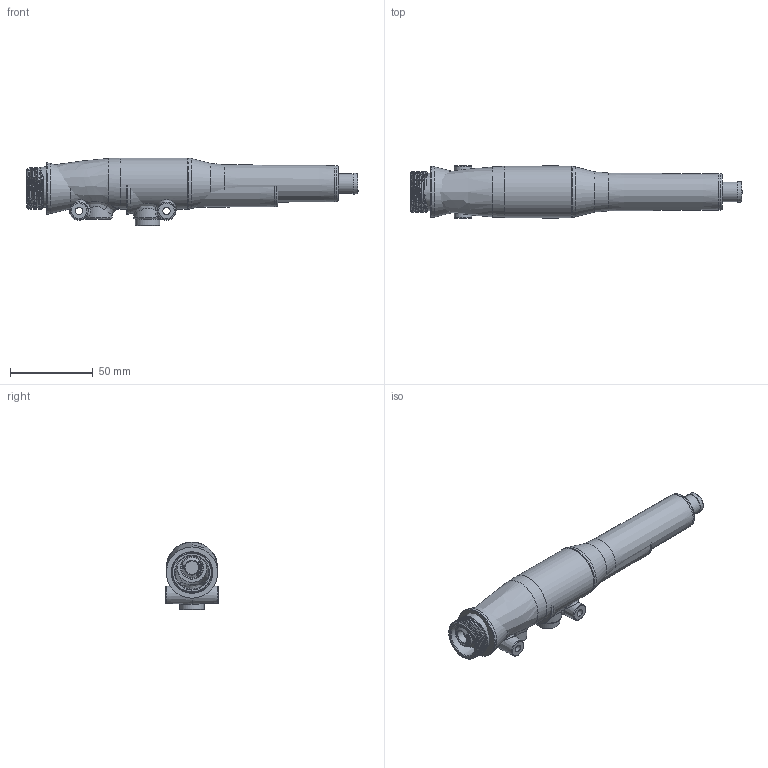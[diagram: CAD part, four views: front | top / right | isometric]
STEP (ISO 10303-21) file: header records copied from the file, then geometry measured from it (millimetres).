
FILE_DESCRIPTION( ( 'Unknown' ), '1' );
FILE_NAME( 'X:/±è¿µ¿î/Green Pump/VC253 Pump-6/GS253F-DIM.stp', 'Unknown', ( 'Unknown' ), ( 'Unknown' ), 'PSStep 10.0', 'Unknown', ' ' );
FILE_SCHEMA( ( 'AUTOMOTIVE_DESIGN { 1 0 10303 214 1 1 1 1 }' ) );
Length unit declared in the file: millimetre
Products named in the file (7): Filter-ass'y-(DIM)asm; Assem1; Silencer Cover-253(癱; Silencer Cover End Cap-253(癱; cartridge fitting(8); Body(Single)-253-DIM; Plug18_New_PPS(dim)
Bounding box: 201.2 x 32 x 41.15 mm (x, y, z)
Volume: 169595.9 mm3; surface area: 91520.9 mm2
Topology: 12 solids, 12 shells, 1067 faces, 2528 edges, 1635 vertices
Faces by surface type: plane 482, bspline 216, cone 116, cylinder 101, torus 90, extrusion 62
Full cylindrical faces by diameter (mm): 1.833 x4, 2.594 x2, 4 x2, 4.2 x2, 4.5 x4, 7 x2, 8 x4, 8.2 x2, 8.8 x4, 9 x3, 10 x2, 10.1 x2, 11.4 x2, 11.9 x2, 12 x3, 12.1 x9, 12.4 x2, 12.8 x2, 14 x2, 14.8 x2, 19 x12, 22 x3, 22.5 x3, 23.5 x2, 25.2 x2, 31 x5
Entity records: 31236 total; most frequent: CARTESIAN_POINT 17271, ORIENTED_EDGE 2146, DIRECTION 1625, EDGE_CURVE 1073, VERTEX_POINT 760, EDGE_LOOP 693, FACE_OUTER_BOUND 578, AXIS2_PLACEMENT_3D 550
